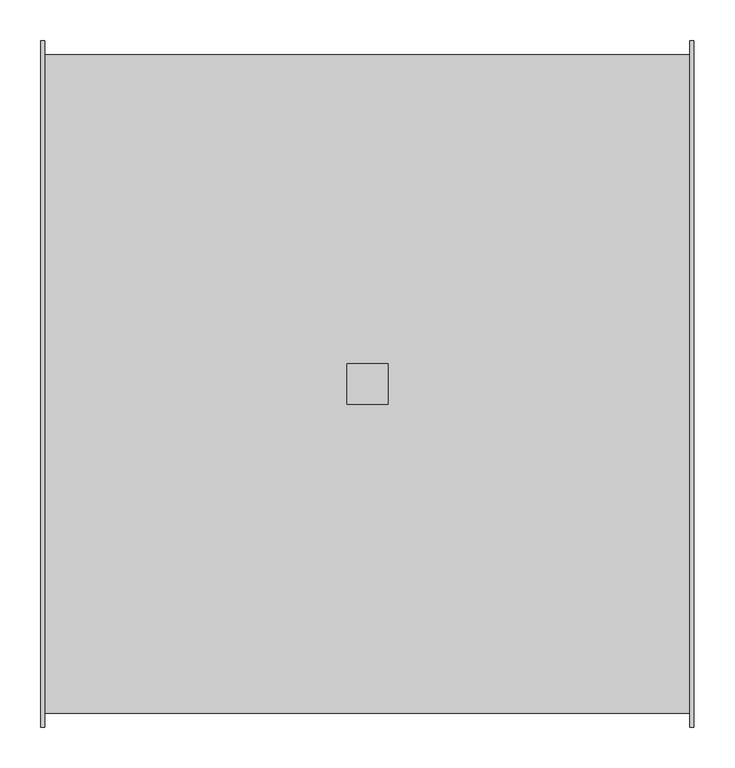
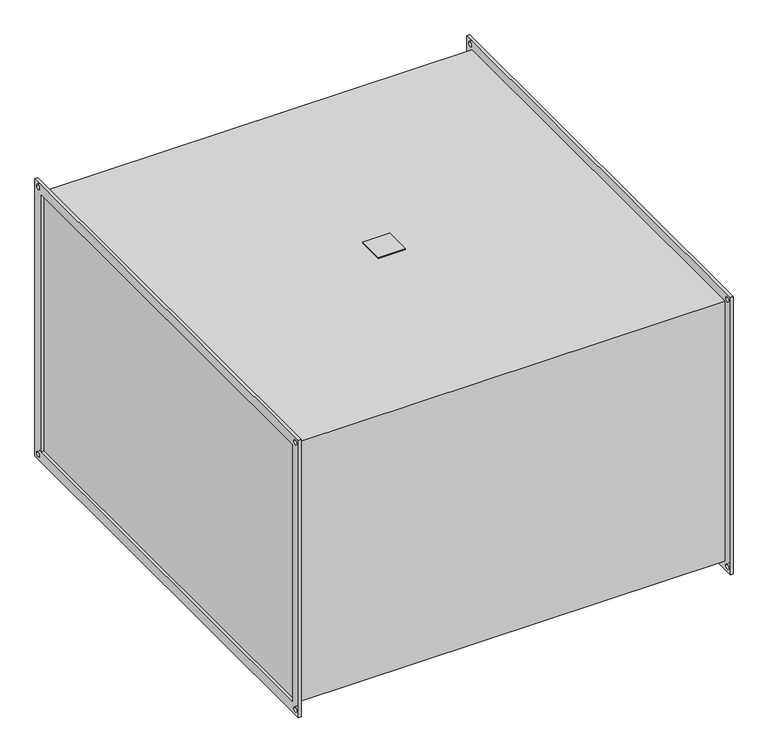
"""IFC4 building model written with IfcOpenShell, lengths in millimetres: damper geometry, KORF_Фильтр_Карманный_FKR : FKR 80-50  EU3."""

from ifc_helpers import new_model, si_unit, point, frame, frame_2d, origin, place, context, project, spatial, polyline, circle_curve, trimmed, segment, composite_curve, outline, extrude, source, transform, mapped, element, save


def damper_6f91f600(model_context):
    return source(origin(), model_context, "Body", "SweptSolid", [
        extrude(outline(polyline([(375.0, -25.0), (375.0, 25.0), (425.0, 25.0), (425.0, -25.0), (375.0, -25.0)])), frame((0.0, 0.0, 253.0), z_axis=(0.0, 0.0, 1.0), x_axis=(1.0, 0.0, 0.0)), (0.0, 0.0, 1.0), 2.0),
        extrude(outline(polyline([(-420.0, 270.0), (420.0, 270.0), (420.0, -270.0), (-420.0, -270.0), (-420.0, 270.0)]), holes=[polyline([(-400.0, 250.0), (-400.0, -250.0), (400.0, -250.0), (400.0, 250.0), (-400.0, 250.0)]), composite_curve([segment(trimmed(circle_curve(frame_2d((410.0, 260.0)), 4.5), [point((405.5, 260.0))], [point((414.5, 260.0))], True, "CARTESIAN"), True, "CONTINUOUS"), segment(trimmed(circle_curve(frame_2d((410.0, 260.0)), 4.5), [point((414.5, 260.0))], [point((405.5, 260.0))], True, "CARTESIAN"), True, "CONTINUOUS")], self_intersect=False), composite_curve([segment(trimmed(circle_curve(frame_2d((-410.0, 260.0)), 4.5), [point((-414.5, 260.0))], [point((-405.5, 260.0))], True, "CARTESIAN"), True, "CONTINUOUS"), segment(trimmed(circle_curve(frame_2d((-410.0, 260.0)), 4.5), [point((-405.5, 260.0))], [point((-414.5, 260.0))], True, "CARTESIAN"), True, "CONTINUOUS")], self_intersect=False), composite_curve([segment(trimmed(circle_curve(frame_2d((-410.0, -260.0)), 4.5), [point((-414.5, -260.0))], [point((-405.5, -260.0))], True, "CARTESIAN"), True, "CONTINUOUS"), segment(trimmed(circle_curve(frame_2d((-410.0, -260.0)), 4.5), [point((-405.5, -260.0))], [point((-414.5, -260.0))], True, "CARTESIAN"), True, "CONTINUOUS")], self_intersect=False), composite_curve([segment(trimmed(circle_curve(frame_2d((410.0, -260.0)), 4.5), [point((405.5, -260.0))], [point((414.5, -260.0))], True, "CARTESIAN"), True, "CONTINUOUS"), segment(trimmed(circle_curve(frame_2d((410.0, -260.0)), 4.5), [point((414.5, -260.0))], [point((405.5, -260.0))], True, "CARTESIAN"), True, "CONTINUOUS")], self_intersect=False)]), frame((795.0, 0.0, 0.0), z_axis=(1.0, 0.0, 0.0), x_axis=(0.0, 1.0, 0.0)), (0.0, 0.0, 1.0), 5.0),
        extrude(outline(polyline([(-420.0, 270.0), (420.0, 270.0), (420.0, -270.0), (-420.0, -270.0), (-420.0, 270.0)]), holes=[polyline([(-400.0, 250.0), (-400.0, -250.0), (400.0, -250.0), (400.0, 250.0), (-400.0, 250.0)]), composite_curve([segment(trimmed(circle_curve(frame_2d((410.0, 260.0)), 4.5), [point((405.5, 260.0))], [point((414.5, 260.0))], True, "CARTESIAN"), True, "CONTINUOUS"), segment(trimmed(circle_curve(frame_2d((410.0, 260.0)), 4.5), [point((414.5, 260.0))], [point((405.5, 260.0))], True, "CARTESIAN"), True, "CONTINUOUS")], self_intersect=False), composite_curve([segment(trimmed(circle_curve(frame_2d((-410.0, 260.0)), 4.5), [point((-414.5, 260.0))], [point((-405.5, 260.0))], True, "CARTESIAN"), True, "CONTINUOUS"), segment(trimmed(circle_curve(frame_2d((-410.0, 260.0)), 4.5), [point((-405.5, 260.0))], [point((-414.5, 260.0))], True, "CARTESIAN"), True, "CONTINUOUS")], self_intersect=False), composite_curve([segment(trimmed(circle_curve(frame_2d((-410.0, -260.0)), 4.5), [point((-414.5, -260.0))], [point((-405.5, -260.0))], True, "CARTESIAN"), True, "CONTINUOUS"), segment(trimmed(circle_curve(frame_2d((-410.0, -260.0)), 4.5), [point((-405.5, -260.0))], [point((-414.5, -260.0))], True, "CARTESIAN"), True, "CONTINUOUS")], self_intersect=False), composite_curve([segment(trimmed(circle_curve(frame_2d((410.0, -260.0)), 4.5), [point((405.5, -260.0))], [point((414.5, -260.0))], True, "CARTESIAN"), True, "CONTINUOUS"), segment(trimmed(circle_curve(frame_2d((410.0, -260.0)), 4.5), [point((414.5, -260.0))], [point((405.5, -260.0))], True, "CARTESIAN"), True, "CONTINUOUS")], self_intersect=False)]), frame((0.0, 0.0, 0.0), z_axis=(1.0, 0.0, 0.0), x_axis=(0.0, 1.0, 0.0)), (0.0, 0.0, 1.0), 5.0),
        extrude(outline(polyline([(795.0, 403.0), (795.0, -403.0), (5.0, -403.0), (5.0, 403.0), (795.0, 403.0)])), frame((0.0, 0.0, -253.0), z_axis=(0.0, 0.0, 1.0), x_axis=(1.0, 0.0, 0.0)), (0.0, 0.0, 1.0), 506.0),
    ])


if __name__ == "__main__":
    model = new_model("IFC4")
    model_context = context("Model", 3, world=origin())
    ifc_project = project(units=[si_unit("LENGTHUNIT", "METRE", prefix="MILLI")], contexts=[model_context])
    site = spatial("IfcSite", under=ifc_project)
    building = spatial("IfcBuilding", under=site)
    placement = place(None, origin())
    damper_shape = damper_6f91f600(model_context)
    element("IfcDamper", 1, ObjectType="KORF_Фильтр_Карманный_FKR : FKR 80-50  EU3", at=placement, inside=building, context=model_context, shape_type="MappedRepresentation", body=[
        mapped(damper_shape, transform((0.0, 0.0, 0.0), x_axis=(1.0, 0.0, 0.0), y_axis=(0.0, 1.0, 0.0), z_axis=(0.0, 0.0, 1.0))),
    ])
    save(model, "model.ifc")
